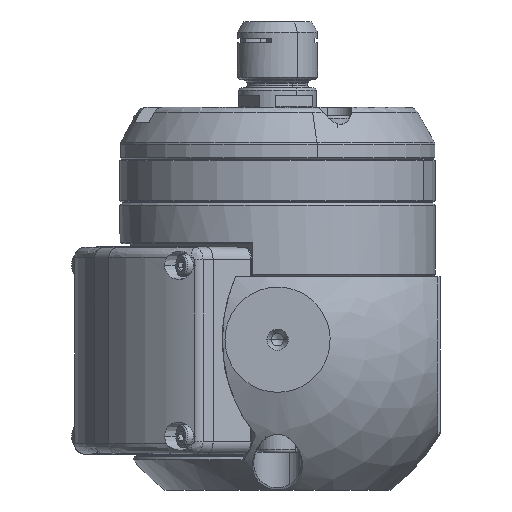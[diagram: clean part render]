
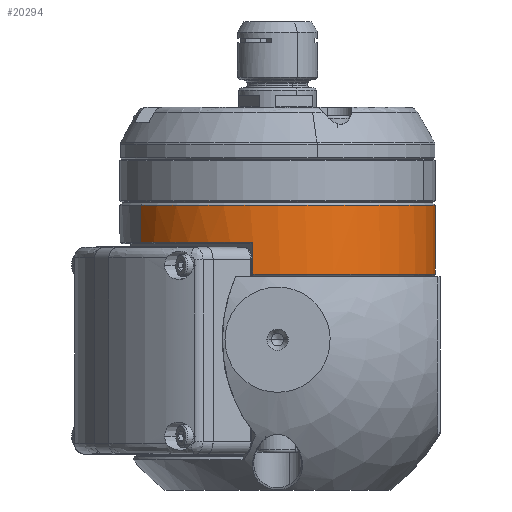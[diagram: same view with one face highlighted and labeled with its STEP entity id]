
A CAD part, front view. The second image highlights one B-rep face of the part: STEP entity #20294.
In plain terms, the highlighted cylindrical face has radius 31.5 mm (diameter 63 mm), a partial arc.
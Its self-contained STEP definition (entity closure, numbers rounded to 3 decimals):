
#2769 = VERTEX_POINT ( 'NONE', #25193 ) ;
#3188 = LINE ( 'NONE', #20755, #9596 ) ;
#3697 = CARTESIAN_POINT ( 'NONE',  ( 0., 37.5, 26.8 ) ) ;
#4737 = ORIENTED_EDGE ( 'NONE', *, *, #29856, .T. ) ;
#5467 = EDGE_CURVE ( 'NONE', #37176, #25917, #19570, .T. ) ;
#7126 = DIRECTION ( 'NONE',  ( -0.866, -0.5, 0. ) ) ;
#8817 = AXIS2_PLACEMENT_3D ( 'NONE', #41078, #41303, #34233 ) ;
#9132 = VECTOR ( 'NONE', #30550, 1000. ) ;
#9596 = VECTOR ( 'NONE', #34683, 1000. ) ;
#11008 = DIRECTION ( 'NONE',  ( 0., 0., -1. ) ) ;
#11542 = ORIENTED_EDGE ( 'NONE', *, *, #5467, .T. ) ;
#13006 = AXIS2_PLACEMENT_3D ( 'NONE', #29055, #17626, #38630 ) ;
#13318 = ORIENTED_EDGE ( 'NONE', *, *, #29832, .T. ) ;
#15717 = LINE ( 'NONE', #23913, #9132 ) ;
#17626 = DIRECTION ( 'NONE',  ( 0., 0., 1. ) ) ;
#18042 = DIRECTION ( 'NONE',  ( 0.866, 0.5, 0. ) ) ;
#19419 = CARTESIAN_POINT ( 'NONE',  ( 27.28, 53.25, 13.1 ) ) ;
#19472 = EDGE_CURVE ( 'NONE', #2769, #22543, #15717, .T. ) ;
#19570 = CIRCLE ( 'NONE', #13006, 31.5 ) ;
#20294 = ADVANCED_FACE ( 'NONE', ( #30868 ), #44775, .T. ) ;
#20755 = CARTESIAN_POINT ( 'NONE',  ( -4.898, 6.383, 19.1 ) ) ;
#21224 = CARTESIAN_POINT ( 'NONE',  ( -27.28, 21.75, 26.8 ) ) ;
#22543 = VERTEX_POINT ( 'NONE', #21224 ) ;
#23226 = ORIENTED_EDGE ( 'NONE', *, *, #42995, .T. ) ;
#23913 = CARTESIAN_POINT ( 'NONE',  ( -27.28, 21.75, 27.3 ) ) ;
#25193 = CARTESIAN_POINT ( 'NONE',  ( -27.28, 21.75, 19.4 ) ) ;
#25917 = VERTEX_POINT ( 'NONE', #19419 ) ;
#26767 = LINE ( 'NONE', #30191, #27156 ) ;
#27156 = VECTOR ( 'NONE', #40663, 1000. ) ;
#27414 = CARTESIAN_POINT ( 'NONE',  ( 27.28, 53.25, 26.8 ) ) ;
#28220 = VERTEX_POINT ( 'NONE', #38785 ) ;
#28760 = VERTEX_POINT ( 'NONE', #27414 ) ;
#29055 = CARTESIAN_POINT ( 'NONE',  ( 0., 37.5, 13.1 ) ) ;
#29832 = EDGE_CURVE ( 'NONE', #2769, #28220, #29955, .T. ) ;
#29856 = EDGE_CURVE ( 'NONE', #28220, #37176, #3188, .T. ) ;
#29955 = CIRCLE ( 'NONE', #8817, 31.5 ) ;
#30191 = CARTESIAN_POINT ( 'NONE',  ( 27.28, 53.25, 27.3 ) ) ;
#30550 = DIRECTION ( 'NONE',  ( 0., 0., 1. ) ) ;
#30868 = FACE_OUTER_BOUND ( 'NONE', #41315, .T. ) ;
#31321 = CARTESIAN_POINT ( 'NONE',  ( 0., 37.5, 27.3 ) ) ;
#34233 = DIRECTION ( 'NONE',  ( 0.866, 0.5, 0. ) ) ;
#34683 = DIRECTION ( 'NONE',  ( 0., 0., -1. ) ) ;
#35373 = EDGE_CURVE ( 'NONE', #28760, #22543, #36335, .T. ) ;
#36335 = CIRCLE ( 'NONE', #37804, 31.5 ) ;
#36891 = AXIS2_PLACEMENT_3D ( 'NONE', #31321, #41349, #7126 ) ;
#36979 = CARTESIAN_POINT ( 'NONE',  ( -4.898, 6.383, 13.1 ) ) ;
#37176 = VERTEX_POINT ( 'NONE', #36979 ) ;
#37804 = AXIS2_PLACEMENT_3D ( 'NONE', #3697, #11008, #18042 ) ;
#38630 = DIRECTION ( 'NONE',  ( -0.866, -0.5, 0. ) ) ;
#38785 = CARTESIAN_POINT ( 'NONE',  ( -4.898, 6.383, 19.4 ) ) ;
#40444 = ORIENTED_EDGE ( 'NONE', *, *, #19472, .F. ) ;
#40663 = DIRECTION ( 'NONE',  ( 0., 0., 1. ) ) ;
#41078 = CARTESIAN_POINT ( 'NONE',  ( 0., 37.5, 19.4 ) ) ;
#41303 = DIRECTION ( 'NONE',  ( 0., 0., 1. ) ) ;
#41315 = EDGE_LOOP ( 'NONE', ( #11542, #23226, #41927, #40444, #13318, #4737 ) ) ;
#41349 = DIRECTION ( 'NONE',  ( 0., 0., 1. ) ) ;
#41927 = ORIENTED_EDGE ( 'NONE', *, *, #35373, .T. ) ;
#42995 = EDGE_CURVE ( 'NONE', #25917, #28760, #26767, .T. ) ;
#44775 = CYLINDRICAL_SURFACE ( 'NONE', #36891, 31.5 ) ;
